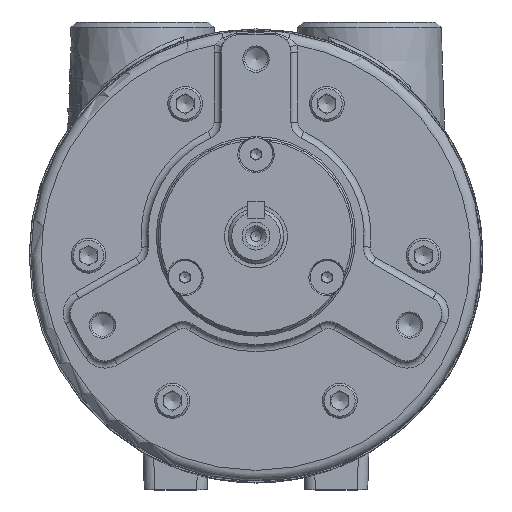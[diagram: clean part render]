
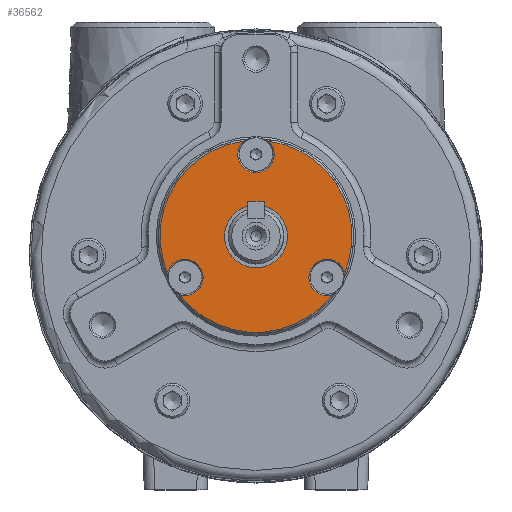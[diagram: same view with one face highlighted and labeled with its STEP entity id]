
A CAD part, top view. The second image highlights one B-rep face of the part: STEP entity #36562.
In plain terms, the highlighted planar face has unit normal (0, 0, 1).
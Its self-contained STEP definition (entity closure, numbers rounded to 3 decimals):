
#491 = EDGE_LOOP ( 'NONE', ( #27140, #12425, #24036, #26534, #12693, #40636 ) ) ;
#763 = AXIS2_PLACEMENT_3D ( 'NONE', #15828, #29590, #2318 ) ;
#2065 = FACE_OUTER_BOUND ( 'NONE', #491, .T. ) ;
#2318 = DIRECTION ( 'NONE',  ( -1., 0., 0. ) ) ;
#2418 = CIRCLE ( 'NONE', #19679, 27.5 ) ;
#3542 = AXIS2_PLACEMENT_3D ( 'NONE', #34591, #44327, #27817 ) ;
#5312 = DIRECTION ( 'NONE',  ( 0., 0., -1. ) ) ;
#5340 = EDGE_CURVE ( 'NONE', #44200, #39069, #21463, .T. ) ;
#5455 = FACE_BOUND ( 'NONE', #43056, .T. ) ;
#5467 = VERTEX_POINT ( 'NONE', #20401 ) ;
#6394 = CARTESIAN_POINT ( 'NONE',  ( -3.587, 32.766, 70.36 ) ) ;
#7113 = CIRCLE ( 'NONE', #12143, 5.2 ) ;
#8375 = EDGE_CURVE ( 'NONE', #39069, #5467, #7113, .T. ) ;
#8457 = CARTESIAN_POINT ( 'NONE',  ( 0., 5.501, 70.36 ) ) ;
#9134 = DIRECTION ( 'NONE',  ( -1., 0., 0. ) ) ;
#9302 = CIRCLE ( 'NONE', #3542, 9. ) ;
#10198 = CARTESIAN_POINT ( 'NONE',  ( -25.406, -5.025, 70.36 ) ) ;
#11456 = DIRECTION ( 'NONE',  ( 1., 0., 0. ) ) ;
#12143 = AXIS2_PLACEMENT_3D ( 'NONE', #32633, #15504, #11456 ) ;
#12325 = EDGE_CURVE ( 'NONE', #15250, #32134, #23203, .T. ) ;
#12425 = ORIENTED_EDGE ( 'NONE', *, *, #31257, .F. ) ;
#12693 = ORIENTED_EDGE ( 'NONE', *, *, #21352, .F. ) ;
#14688 = DIRECTION ( 'NONE',  ( 1., 0., 0. ) ) ;
#15250 = VERTEX_POINT ( 'NONE', #41550 ) ;
#15504 = DIRECTION ( 'NONE',  ( 0., 0., 1. ) ) ;
#15828 = CARTESIAN_POINT ( 'NONE',  ( 0., 14.501, 70.36 ) ) ;
#18135 = CARTESIAN_POINT ( 'NONE',  ( 0., 5.501, 70.36 ) ) ;
#18212 = AXIS2_PLACEMENT_3D ( 'NONE', #36408, #25825, #26479 ) ;
#18263 = CARTESIAN_POINT ( 'NONE',  ( 20.352, -6.249, 70.36 ) ) ;
#18593 = ORIENTED_EDGE ( 'NONE', *, *, #35252, .F. ) ;
#19679 = AXIS2_PLACEMENT_3D ( 'NONE', #18135, #39091, #25094 ) ;
#20401 = CARTESIAN_POINT ( 'NONE',  ( 3.587, 32.766, 70.36 ) ) ;
#21342 = VERTEX_POINT ( 'NONE', #28136 ) ;
#21352 = EDGE_CURVE ( 'NONE', #5467, #15250, #22374, .T. ) ;
#21463 = CIRCLE ( 'NONE', #31545, 27.5 ) ;
#22374 = CIRCLE ( 'NONE', #25308, 27.5 ) ;
#23203 = CIRCLE ( 'NONE', #38333, 5.2 ) ;
#23647 = CARTESIAN_POINT ( 'NONE',  ( 21.819, -11.237, 70.36 ) ) ;
#24036 = ORIENTED_EDGE ( 'NONE', *, *, #32676, .F. ) ;
#24061 = CARTESIAN_POINT ( 'NONE',  ( -21.819, -11.237, 70.36 ) ) ;
#25094 = DIRECTION ( 'NONE',  ( -1., 0., 0. ) ) ;
#25308 = AXIS2_PLACEMENT_3D ( 'NONE', #28647, #32021, #31813 ) ;
#25825 = DIRECTION ( 'NONE',  ( 0., 0., 1. ) ) ;
#26479 = DIRECTION ( 'NONE',  ( 1., 0., 0. ) ) ;
#26534 = ORIENTED_EDGE ( 'NONE', *, *, #12325, .F. ) ;
#27140 = ORIENTED_EDGE ( 'NONE', *, *, #5340, .F. ) ;
#27817 = DIRECTION ( 'NONE',  ( -1., 0., 0. ) ) ;
#28136 = CARTESIAN_POINT ( 'NONE',  ( -9., 5.501, 70.36 ) ) ;
#28647 = CARTESIAN_POINT ( 'NONE',  ( 0., 5.501, 70.36 ) ) ;
#29590 = DIRECTION ( 'NONE',  ( 0., 0., -1. ) ) ;
#31257 = EDGE_CURVE ( 'NONE', #41107, #44200, #41974, .T. ) ;
#31545 = AXIS2_PLACEMENT_3D ( 'NONE', #8457, #5312, #9134 ) ;
#31813 = DIRECTION ( 'NONE',  ( -1., 0., 0. ) ) ;
#32021 = DIRECTION ( 'NONE',  ( 0., 0., -1. ) ) ;
#32134 = VERTEX_POINT ( 'NONE', #23647 ) ;
#32633 = CARTESIAN_POINT ( 'NONE',  ( 0., 29.001, 70.36 ) ) ;
#32670 = DIRECTION ( 'NONE',  ( 0., 0., 1. ) ) ;
#32676 = EDGE_CURVE ( 'NONE', #32134, #41107, #2418, .T. ) ;
#34591 = CARTESIAN_POINT ( 'NONE',  ( 0., 5.501, 70.36 ) ) ;
#35252 = EDGE_CURVE ( 'NONE', #21342, #21342, #9302, .T. ) ;
#36408 = CARTESIAN_POINT ( 'NONE',  ( -20.352, -6.249, 70.36 ) ) ;
#36562 = ADVANCED_FACE ( 'NONE', ( #2065, #5455 ), #40618, .F. ) ;
#38333 = AXIS2_PLACEMENT_3D ( 'NONE', #18263, #32670, #14688 ) ;
#39069 = VERTEX_POINT ( 'NONE', #6394 ) ;
#39091 = DIRECTION ( 'NONE',  ( 0., 0., -1. ) ) ;
#40618 = PLANE ( 'NONE',  #763 ) ;
#40636 = ORIENTED_EDGE ( 'NONE', *, *, #8375, .F. ) ;
#41107 = VERTEX_POINT ( 'NONE', #24061 ) ;
#41550 = CARTESIAN_POINT ( 'NONE',  ( 25.406, -5.025, 70.36 ) ) ;
#41974 = CIRCLE ( 'NONE', #18212, 5.2 ) ;
#43056 = EDGE_LOOP ( 'NONE', ( #18593 ) ) ;
#44200 = VERTEX_POINT ( 'NONE', #10198 ) ;
#44327 = DIRECTION ( 'NONE',  ( 0., 0., 1. ) ) ;
